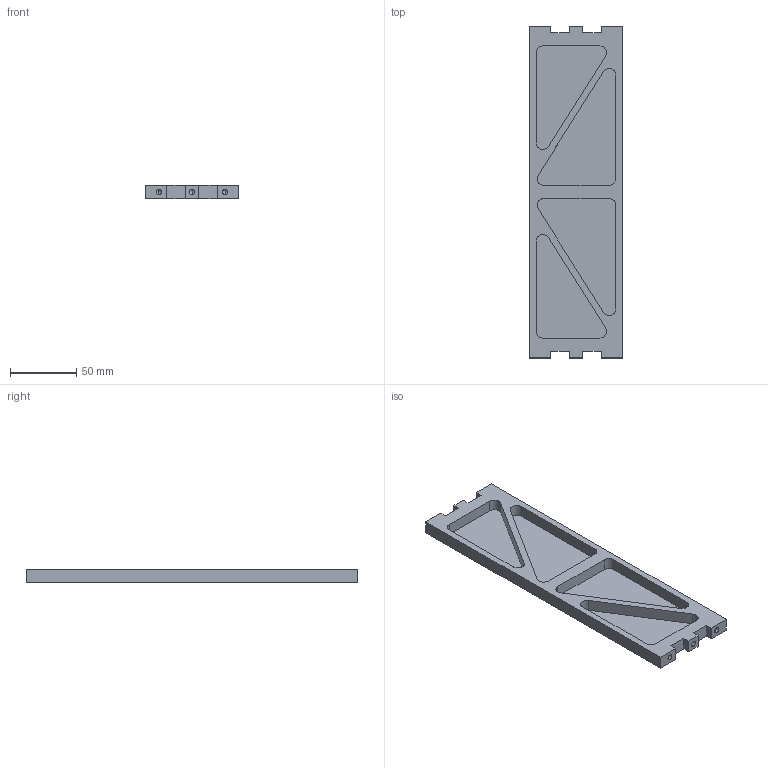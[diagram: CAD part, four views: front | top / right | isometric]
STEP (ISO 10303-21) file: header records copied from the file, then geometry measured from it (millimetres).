
FILE_DESCRIPTION (( 'STEP AP203' ), '1' );
FILE_NAME ('spacer-2.STEP', '2024-07-01T08:03:15', ( '' ), ( '' ), 'SwSTEP 2.0', 'SolidWorks 2021', '' );
FILE_SCHEMA (( 'CONFIG_CONTROL_DESIGN' ));
Length unit declared in the file: millimetre
Products named in the file (1): spacer-2
Bounding box: 70 x 250 x 10 mm (x, y, z)
Volume: 70377.3 mm3; surface area: 50766.4 mm2
Topology: 1 solids, 1 shells, 76 faces, 198 edges, 122 vertices
Faces by surface type: plane 38, cylinder 26, cone 12
Entity records: 2311 total; most frequent: DIRECTION 392, CARTESIAN_POINT 385, ORIENTED_EDGE 372, EDGE_CURVE 186, VECTOR 134, LINE 134, AXIS2_PLACEMENT_3D 129, VERTEX_POINT 122
